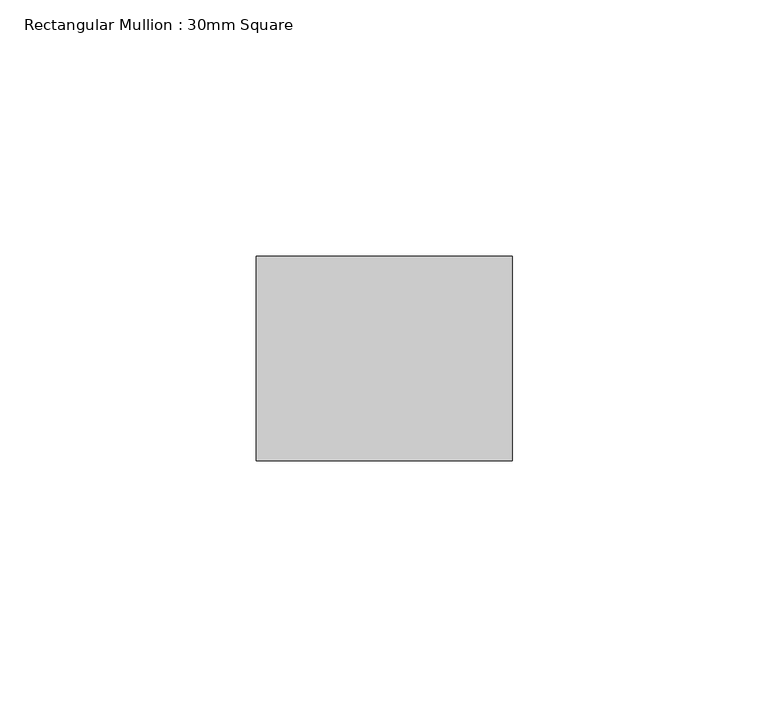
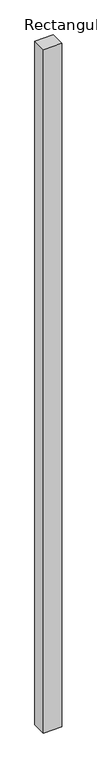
"""IFC4 building model written with IfcOpenShell, lengths in millimetres: member geometry, Rectangular Mullion : 30mm Square."""

from ifc_helpers import new_model, si_unit, frame, origin, place, context, project, spatial, polyline, outline, extrude, source, transform, mapped, element, save


def rectangular_mullion_30mm_square_bc888c15(model_context):
    return source(origin(), model_context, "Body", "SweptSolid", [
        extrude(outline(polyline([(0.0, 20.0), (0.0, -20.0), (-50.0, -20.0), (-50.0, 20.0), (0.0, 20.0)])), frame((0.0, 0.0, -1950.0), z_axis=(0.0, 0.0, 1.0), x_axis=(1.0, 0.0, 0.0)), (0.0, 0.0, 1.0), 1950.0),
    ])


if __name__ == "__main__":
    model = new_model("IFC4")
    model_context = context("Model", 3, world=origin())
    ifc_project = project(units=[si_unit("LENGTHUNIT", "METRE", prefix="MILLI")], contexts=[model_context])
    site = spatial("IfcSite", under=ifc_project)
    building = spatial("IfcBuilding", under=site)
    placement = place(None, origin())
    rectangular_mullion_30mm_square_shape = rectangular_mullion_30mm_square_bc888c15(model_context)
    element("IfcMember", 1, ObjectType="Rectangular Mullion : 30mm Square", at=placement, inside=building, context=model_context, shape_type="MappedRepresentation", body=[
        mapped(rectangular_mullion_30mm_square_shape, transform((0.0, 0.0, 0.0), x_axis=(1.0, 0.0, 0.0), y_axis=(0.0, 1.0, 0.0), z_axis=(0.0, 0.0, 1.0))),
    ])
    save(model, "model.ifc")
